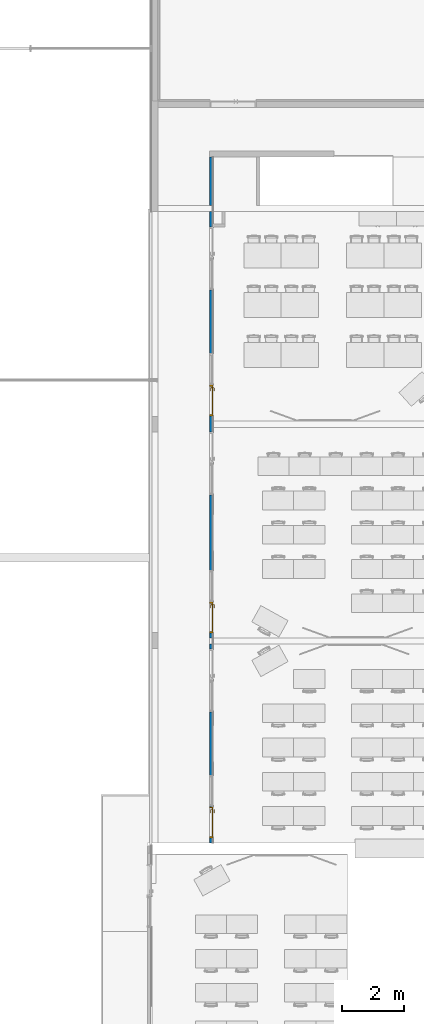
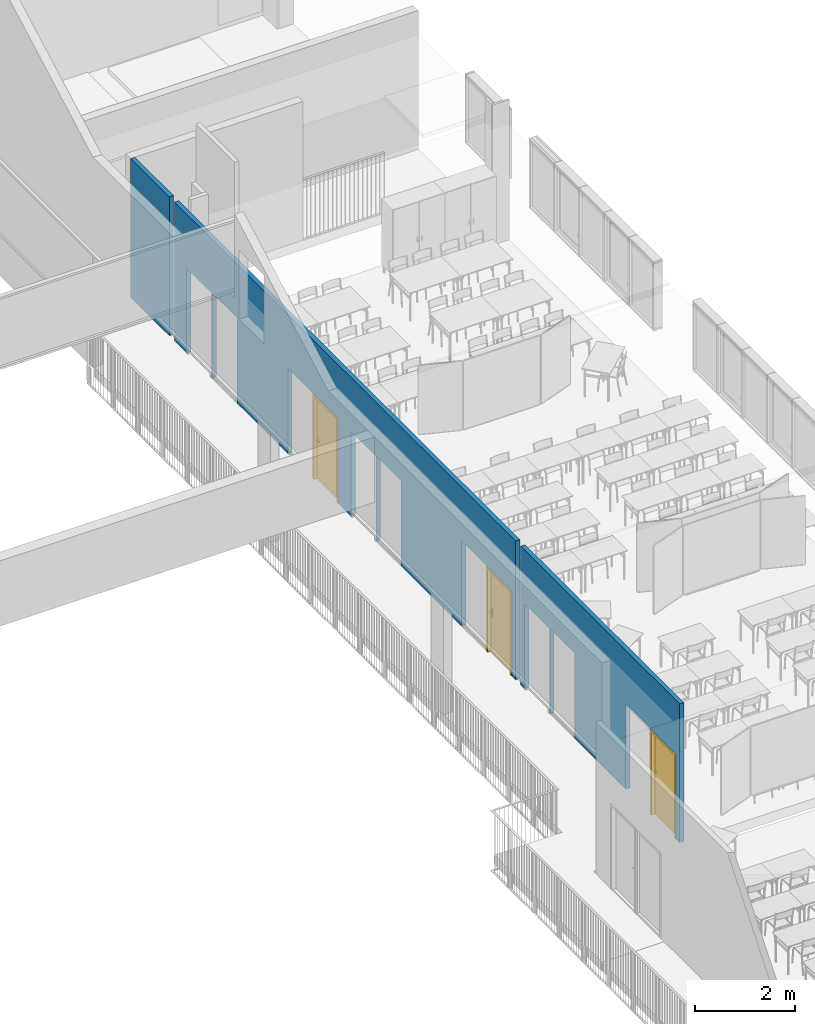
# One storey, part 30 of 44: 3 doors, 1 wall, 6 openings.
"""IFC2X3 building model written with IfcOpenShell, lengths in centimetres."""

from ifc_helpers import new_model, entity, si_unit, converted_unit, derived_unit, direction, frame, frame_2d, origin, place, context, subcontext, project, spatial, rectangle, extrude, faceted_brep, source, transform, mapped, material, material_list, layer, layer_set, type_object, type_shapes, element, fill, save


model = new_model("IFC2X3")

# Units and contexts
model_context = context("Model", 3, precision=0.001, world=origin(), true_north=direction((6.12303176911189e-17, 1.0)))
body_context = subcontext(model_context, "Body", "Model", "MODEL_VIEW")
ifc_project = project(units=[si_unit("LENGTHUNIT", "METRE", prefix="CENTI"), si_unit("AREAUNIT", "SQUARE_METRE"), si_unit("VOLUMEUNIT", "CUBIC_METRE"), converted_unit("PLANEANGLEUNIT", "DEGREE", entity("IfcRatioMeasure", 0.0174532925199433), si_unit("PLANEANGLEUNIT", "RADIAN"), dimensions=[0, 0, 0, 0, 0, 0, 0]), si_unit("MASSUNIT", "GRAM", prefix="KILO"), si_unit("TIMEUNIT", "SECOND"), si_unit("FREQUENCYUNIT", "HERTZ"), si_unit("THERMODYNAMICTEMPERATUREUNIT", "DEGREE_CELSIUS"), derived_unit("THERMALTRANSMITTANCEUNIT", [(si_unit("MASSUNIT", "GRAM", prefix="KILO"), 1), (si_unit("THERMODYNAMICTEMPERATUREUNIT", "KELVIN"), -1), (si_unit("TIMEUNIT", "SECOND"), -3)]), derived_unit("VOLUMETRICFLOWRATEUNIT", [(si_unit("LENGTHUNIT", "METRE"), 3), (si_unit("TIMEUNIT", "SECOND"), -1)]), si_unit("ELECTRICCURRENTUNIT", "AMPERE"), si_unit("ELECTRICVOLTAGEUNIT", "VOLT"), si_unit("POWERUNIT", "WATT"), si_unit("FORCEUNIT", "NEWTON", prefix="KILO"), si_unit("ILLUMINANCEUNIT", "LUX"), si_unit("LUMINOUSFLUXUNIT", "LUMEN"), si_unit("LUMINOUSINTENSITYUNIT", "CANDELA"), derived_unit("USERDEFINED", [(si_unit("MASSUNIT", "GRAM", prefix="KILO"), -1), (si_unit("LENGTHUNIT", "METRE"), -2), (si_unit("TIMEUNIT", "SECOND"), 3), (si_unit("LUMINOUSFLUXUNIT", "LUMEN"), 1)]), derived_unit("LINEARVELOCITYUNIT", [(si_unit("LENGTHUNIT", "METRE"), 1), (si_unit("TIMEUNIT", "SECOND"), -1)]), si_unit("PRESSUREUNIT", "PASCAL"), derived_unit("USERDEFINED", [(si_unit("LENGTHUNIT", "METRE"), -2), (si_unit("MASSUNIT", "GRAM", prefix="KILO"), 1), (si_unit("TIMEUNIT", "SECOND"), -2)])], contexts=[model_context])

# Site, building, storey
site_placement = place(None, frame((8.62739174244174, -249.285249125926, 0.0)))
site = spatial("IfcSite", under=ifc_project, at=site_placement, Name="Default", CompositionType="ELEMENT")
building_placement = place(site_placement, origin())
building = spatial("IfcBuilding", under=site, at=building_placement, CompositionType="ELEMENT")
storey_placement = place(building_placement, frame((0.0, 0.0, 343.0)))
storey = spatial("IfcBuildingStorey", under=building, at=storey_placement, Name="R+1", CompositionType="ELEMENT", Elevation=343.0)

# Wall, openings, doors
ifc_material_1 = material(Name="Plâtre")
ifc_layer = layer(ifc_material_1, 10.0)
ifc_layer_set = layer_set([ifc_layer], Name="Mur de base:PLA 10")
wall_type = type_object("IfcWallType", Name="Mur de base:PLA 10", PredefinedType="STANDARD", material=ifc_layer_set)
wall_placement = place(storey_placement, frame((3224.90482780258, 2654.98020806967, 0.0), z_axis=(0.0, 0.0, 1.0), x_axis=(0.0, 1.0, 0.0)))
wall = element("IfcWall", 1, at=wall_placement, inside=storey, type_object=wall_type, Name="Mur de base:PLA 10", ObjectType="Mur de base:PLA 10", context=body_context, shape_type="Brep", body=[
    faceted_brep([(638.204985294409, -5.0, 0.0), (638.204985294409, -5.0, 340.0), (0.0, -5.0, 340.0), (0.0, -5.0, 0.0), (16.0, -5.0, 0.0), (16.0, -5.0, 207.499999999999), (116.0, -5.0, 207.499999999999), (116.0, -5.0, 0.0), (117.0, -5.0, 0.0), (117.0, -5.0, 208.499999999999), (217.0, -5.0, 208.499999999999), (217.0, -5.0, 0.0), (421.20498529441, -5.0, 0.0), (421.20498529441, -5.0, 208.499999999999), (521.20498529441, -5.0, 208.499999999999), (521.20498529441, -5.0, 0.0), (522.20498529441, -5.0, 0.0), (522.204985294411, -5.0, 207.499999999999), (622.20498529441, -5.0, 207.499999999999), (622.20498529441, -5.0, 0.0), (0.0, 5.0, 0.0), (16.0, 5.0, 0.0), (0.0, 5.0, 340.0), (638.204985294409, 5.0, 0.0), (638.204985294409, 5.0, 340.0), (16.0, 5.0, 207.499999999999), (116.0, 5.0, 207.499999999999), (116.0, 5.0, 0.0), (117.0, 5.0, 208.499999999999), (117.0, 5.0, 0.0), (217.0, 5.0, 208.499999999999), (217.0, 5.0, 0.0), (421.20498529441, 5.0, 208.499999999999), (421.20498529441, 5.0, 0.0), (521.20498529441, 5.0, 208.499999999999), (521.20498529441, 5.0, 0.0), (622.20498529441, 5.0, 207.499999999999), (622.20498529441, 5.0, 0.0), (522.204985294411, 5.0, 207.499999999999), (522.204985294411, 5.0, 0.0)], [[[0, 1, 2, 3, 4, 5, 6, 7, 8, 9, 10, 11, 12, 13, 14, 15, 16, 17, 18, 19]], [[3, 20, 21, 4]], [[20, 3, 2, 22]], [[1, 0, 23, 24]], [[25, 5, 4, 21]], [[5, 25, 26, 6]], [[6, 26, 27, 7]], [[28, 9, 8, 29]], [[9, 28, 30, 10]], [[10, 30, 31, 11]], [[32, 13, 12, 33]], [[34, 14, 13, 32]], [[14, 34, 35, 15]], [[2, 1, 24, 22]], [[18, 36, 37, 19]], [[36, 18, 17, 38]], [[38, 17, 16, 39]], [[7, 27, 29, 8]], [[11, 31, 33, 12]], [[15, 35, 39, 16]], [[23, 0, 19, 37]], [[25, 21, 20, 22, 24, 23, 37, 36, 38, 39, 35, 34, 32, 33, 31, 30, 28, 29, 27, 26]]]),
    faceted_brep([(2048.0, 5.0, 0.0), (2048.0, 5.0, 340.0), (2203.0, 5.0, 340.0), (2203.0, 5.0, 0.0), (2203.0, -5.0, 0.0), (2203.0, -5.0, 340.0), (2048.0, -5.0, 0.0), (2048.0, -5.0, 340.0)], [[[0, 1, 2, 3]], [[4, 3, 2, 5]], [[6, 7, 1, 0]], [[7, 5, 2, 1]], [[3, 4, 6, 0]], [[7, 6, 4, 5]]]),
    faceted_brep([(2028.0, -5.0, 340.0), (2028.0, -5.0, 0.0), (2028.0, 5.0, 0.0), (2028.0, 5.0, 340.0), (658.204985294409, -5.0, 0.0), (658.204985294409, -5.0, 340.0), (658.204985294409, 5.0, 340.0), (658.204985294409, 5.0, 0.0), (1371.20498529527, 5.0, 207.499999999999), (1371.20498529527, -5.0, 207.499999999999), (1371.20498529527, -5.0, 0.0), (1371.20498529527, 5.0, 0.0), (1471.20498529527, 5.0, 207.499999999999), (1471.20498529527, -5.0, 207.499999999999), (1471.20498529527, 5.0, 0.0), (1471.20498529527, -5.0, 0.0), (674.204985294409, 5.0, 207.499999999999), (674.204985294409, -5.0, 207.499999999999), (674.204985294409, -5.0, 0.0), (674.204985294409, 5.0, 0.0), (774.204985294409, 5.0, 207.499999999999), (774.204985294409, -5.0, 207.499999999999), (774.204985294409, 5.0, 0.0), (774.204985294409, -5.0, 0.0), (1472.20498529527, 5.0, 208.499999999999), (1472.20498529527, -5.0, 208.499999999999), (1472.20498529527, -5.0, 0.0), (1472.20498529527, 5.0, 0.0), (1572.20498529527, 5.0, 208.499999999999), (1572.20498529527, -5.0, 208.499999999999), (1572.20498529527, 5.0, 0.0), (1572.20498529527, -5.0, 0.0), (775.20498529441, 5.0, 208.499999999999), (775.20498529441, -5.0, 208.499999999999), (775.20498529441, -5.0, 0.0), (775.20498529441, 5.0, 0.0), (875.20498529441, 5.0, 208.499999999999), (875.20498529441, -5.0, 208.499999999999), (875.20498529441, 5.0, 0.0), (875.20498529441, -5.0, 0.0), (1118.20498529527, 5.0, 208.499999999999), (1118.20498529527, -5.0, 208.499999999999), (1118.20498529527, -5.0, 0.0), (1118.20498529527, 5.0, 0.0), (1218.20498529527, 5.0, 208.499999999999), (1218.20498529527, -5.0, 208.499999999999), (1218.20498529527, 5.0, 0.0), (1218.20498529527, -5.0, 0.0), (1776.50000006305, 5.0, 208.499999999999), (1776.50000006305, -5.0, 208.499999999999), (1776.50000006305, -5.0, 0.0), (1776.50000006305, 5.0, 0.0), (1876.50000006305, 5.0, 208.499999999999), (1876.50000006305, -5.0, 208.499999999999), (1876.50000006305, 5.0, 0.0), (1876.50000006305, -5.0, 0.0), (1319.20498529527, -5.0, 207.499999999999), (1319.20498529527, 5.0, 207.499999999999), (1319.20498529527, 5.0, 0.0), (1319.20498529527, -5.0, 0.0), (1219.20498529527, -5.0, 207.499999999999), (1219.20498529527, 5.0, 207.499999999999), (1219.20498529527, -5.0, 0.0), (1219.20498529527, 5.0, 0.0), (1978.0, -5.0, 0.0), (1978.0, -5.0, 207.499999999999), (1978.0, 5.0, 207.499999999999), (1978.0, 5.0, 0.0), (1878.0, -5.0, 207.499999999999), (1878.0, 5.0, 207.499999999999), (1878.0, -5.0, 0.0), (1878.0, 5.0, 0.0), (1335.20498529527, -5.0, 340.0), (1355.20498529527, -5.0, 340.0), (1355.20498529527, -5.0, 0.0), (1335.20498529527, -5.0, 0.0)], [[[0, 1, 2, 3]], [[4, 5, 6, 7]], [[8, 9, 10, 11]], [[9, 8, 12, 13]], [[13, 12, 14, 15]], [[16, 17, 18, 19]], [[17, 16, 20, 21]], [[21, 20, 22, 23]], [[24, 25, 26, 27]], [[25, 24, 28, 29]], [[29, 28, 30, 31]], [[32, 33, 34, 35]], [[33, 32, 36, 37]], [[37, 36, 38, 39]], [[40, 41, 42, 43]], [[44, 45, 41, 40]], [[45, 44, 46, 47]], [[48, 49, 50, 51]], [[52, 53, 49, 48]], [[53, 52, 54, 55]], [[56, 57, 58, 59]], [[57, 56, 60, 61]], [[61, 60, 62, 63]], [[64, 65, 66, 67]], [[65, 68, 69, 66]], [[68, 70, 71, 69]], [[5, 72, 73, 0, 3, 6]], [[4, 7, 19, 18]], [[23, 22, 35, 34]], [[39, 38, 43, 42]], [[47, 46, 63, 62]], [[15, 14, 27, 26]], [[31, 30, 51, 50]], [[55, 54, 71, 70]], [[11, 10, 74, 75, 59, 58]], [[2, 1, 64, 67]], [[3, 2, 67, 66, 69, 71, 54, 52, 48, 51, 30, 28, 24, 27, 14, 12, 8, 11, 58, 57, 61, 63, 46, 44, 40, 43, 38, 36, 32, 35, 22, 20, 16, 19, 7, 6]], [[1, 0, 73, 72, 5, 4, 18, 17, 21, 23, 34, 33, 37, 39, 42, 41, 45, 47, 62, 60, 56, 59, 75, 74, 10, 9, 13, 15, 26, 25, 29, 31, 50, 49, 53, 55, 70, 68, 65, 64]]]),
])
opening_1_placement = place(wall_placement, frame((1471.20498529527, 5.0, 0.0)))
opening_1 = element("IfcOpeningElement", 2, at=opening_1_placement, cuts=wall, Name="Simple(R)_bois_mu:93 x 204 cm:1", ObjectType="Opening", context=body_context, shape_type="SweptSolid", body=[
    extrude(rectangle(XDim=207.499999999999, YDim=99.9999999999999, at=frame_2d((103.749999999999, 50.0), x_axis=(1.0, 0.0))), frame((0.0, 0.0, 0.0), z_axis=(0.0, -1.0, 0.0), x_axis=(0.0, 0.0, 1.0)), (0.0, 0.0, 1.0), 10.0),
])
opening_2_placement = place(wall_placement, frame((116.0, 5.0, 0.0)))
opening_2 = element("IfcOpeningElement", 3, at=opening_2_placement, cuts=wall, Name="Simple(R)_bois_mu:93 x 204 cm:1", ObjectType="Opening", context=body_context, shape_type="SweptSolid", body=[
    extrude(rectangle(XDim=207.499999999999, YDim=99.9999999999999, at=frame_2d((103.749999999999, 50.0), x_axis=(1.0, 0.0))), frame((0.0, 0.0, 0.0), z_axis=(0.0, -1.0, 0.0), x_axis=(0.0, 0.0, 1.0)), (0.0, 0.0, 1.0), 10.0),
])
opening_3_placement = place(wall_placement, frame((774.204985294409, 5.0, 0.0)))
opening_3 = element("IfcOpeningElement", 4, at=opening_3_placement, cuts=wall, Name="Simple(R)_bois_mu:93 x 204 cm:1", ObjectType="Opening", context=body_context, shape_type="SweptSolid", body=[
    extrude(rectangle(XDim=207.499999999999, YDim=99.9999999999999, at=frame_2d((103.749999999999, 50.0), x_axis=(1.0, 0.0))), frame((0.0, 0.0, 0.0), z_axis=(0.0, -1.0, 0.0), x_axis=(0.0, 0.0, 1.0)), (0.0, 0.0, 1.0), 10.0),
])
opening_4_placement = place(wall_placement, frame((622.204985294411, 5.0, 0.0)))
element("IfcOpeningElement", 5, at=opening_4_placement, cuts=wall, Name="Simple(R)_bois_mu:93 x 204 cm:1", ObjectType="Opening", context=body_context, shape_type="SweptSolid", body=[
    extrude(rectangle(XDim=207.499999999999, YDim=99.9999999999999, at=frame_2d((103.749999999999, 50.0), x_axis=(1.0, 0.0))), frame((0.0, 0.0, 0.0), z_axis=(0.0, -1.0, 0.0), x_axis=(0.0, 0.0, 1.0)), (0.0, 0.0, 1.0), 10.0),
])
opening_5_placement = place(wall_placement, frame((1319.20498529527, 5.0, 0.0)))
element("IfcOpeningElement", 6, at=opening_5_placement, cuts=wall, Name="Simple(R)_bois_mu:93 x 204 cm:1", ObjectType="Opening", context=body_context, shape_type="SweptSolid", body=[
    extrude(rectangle(XDim=207.499999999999, YDim=99.9999999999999, at=frame_2d((103.749999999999, 50.0), x_axis=(1.0, 0.0))), frame((0.0, 0.0, 0.0), z_axis=(0.0, -1.0, 0.0), x_axis=(0.0, 0.0, 1.0)), (0.0, 0.0, 1.0), 10.0),
])
opening_6_placement = place(wall_placement, frame((1978.0, 5.0, 0.0)))
element("IfcOpeningElement", 7, at=opening_6_placement, cuts=wall, Name="Simple(R)_bois_mu:93 x 204 cm:1", ObjectType="Opening", context=body_context, shape_type="SweptSolid", body=[
    extrude(rectangle(XDim=207.499999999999, YDim=99.9999999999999, at=frame_2d((103.749999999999, 49.9999999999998), x_axis=(1.0, 0.0))), frame((0.0, 0.0, 0.0), z_axis=(0.0, -1.0, 0.0), x_axis=(0.0, 0.0, 1.0)), (0.0, 0.0, 1.0), 10.0),
])
ifc_material_2 = material(Name="Porte - Poignée")
ifc_material_3 = material(Name="Porte - Cadre")
ifc_material_4 = material(Name="Porte - Panneau")
ifc_material_list_1 = material_list([ifc_material_2, ifc_material_3, ifc_material_4])
ifc_material_list_2 = material_list([ifc_material_2, ifc_material_3, ifc_material_4])
door_style = type_object("IfcDoorStyle", Name="93 x 204 cm", ConstructionType="NOTDEFINED", OperationType="SINGLE_SWING_LEFT", ParameterTakesPrecedence=False, Sizeable=False, material=ifc_material_list_2)
shared_shape = source(origin(), body_context, "Body", "Brep", [
    faceted_brep([(92.2025298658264, 3.69999999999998, 100.778044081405), (91.7974701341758, 3.69999999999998, 100.778044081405), (91.3999999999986, 3.69999999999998, 100.699999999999), (91.4000000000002, 3.69999999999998, 99.3000000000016), (91.7974701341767, 3.69999999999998, 99.2219559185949), (92.2025298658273, 3.69999999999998, 99.2219559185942), (92.6000000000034, 3.69999999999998, 99.2999999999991), (92.600000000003, 3.69999999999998, 100.699999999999), (91.3999999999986, 5.94852045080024, 100.699999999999), (91.3999999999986, 5.94852045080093, 99.3000000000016), (91.7974701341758, 6.1131579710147, 100.778044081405), (92.2025298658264, 6.2809392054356, 100.778044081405), (90.5838906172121, 7.89957845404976, 100.778044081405), (90.4161093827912, 7.49451872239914, 100.778044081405), (82.0793122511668, 7.49451872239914, 100.778044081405), (81.911531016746, 7.89957845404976, 100.778044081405), (81.1451046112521, 7.13315204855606, 100.778044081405), (81.4315250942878, 6.84673156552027, 100.778044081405), (92.600000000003, 6.44557672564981, 100.699999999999), (92.6000000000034, 6.44557672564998, 99.2999999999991), (92.2025298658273, 6.28093920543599, 99.2219559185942), (91.7974701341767, 6.11315797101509, 99.2219559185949), (90.4161093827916, 7.49451872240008, 99.2219559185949), (90.5838906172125, 7.8995784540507, 99.2219559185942), (81.9115310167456, 7.8995784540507, 99.2219559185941), (82.0793122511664, 7.49451872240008, 99.2219559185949), (81.4315250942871, 6.84673156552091, 99.2219559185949), (81.1451046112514, 7.13315204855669, 99.2219559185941), (90.2514718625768, 7.09704858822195, 100.699999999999), (90.2514718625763, 7.09704858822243, 99.3000000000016), (90.7485281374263, 8.29704858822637, 100.699999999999), (90.7485281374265, 8.29704858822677, 99.2999999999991), (86.247710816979, 7.09704858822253, 100.699999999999), (82.2439497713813, 7.09704858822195, 100.699999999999), (82.2439497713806, 7.09704858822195, 99.3000000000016), (86.247710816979, 7.09704858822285, 99.3000000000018), (86.2477108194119, 7.71249275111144, 100.787811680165), (85.7399422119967, 8.29704858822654, 100.699999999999), (81.7468934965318, 8.29704858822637, 100.699999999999), (86.7554791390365, 8.29704858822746, 99.2999999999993), (81.7468934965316, 8.29704858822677, 99.2999999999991), (86.2477107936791, 7.71249274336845, 99.2121883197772), (80.8640507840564, 7.41420587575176, 100.699999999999), (80.8640507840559, 7.41420587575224, 99.2999999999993), (81.7125789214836, 6.5656777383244, 99.3000000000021), (81.7125789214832, 6.56567773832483, 100.699999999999)], [[[0, 1, 2, 3, 4, 5, 6, 7]], [[8, 9, 3, 2]], [[1, 10, 8, 2]], [[1, 0, 11, 12, 13, 10]], [[14, 15, 16, 17]], [[7, 18, 11, 0]], [[18, 7, 6, 19]], [[6, 5, 20, 19]], [[5, 4, 21, 22, 23, 20]], [[24, 25, 26, 27]], [[4, 3, 9, 21]], [[28, 29, 9, 8]], [[8, 10, 13, 28]], [[18, 30, 12, 11]], [[31, 30, 18, 19]], [[19, 20, 23, 31]], [[21, 9, 29, 22]], [[29, 28, 32, 33, 34, 35]], [[36, 32, 13]], [[37, 38, 15]], [[37, 12, 30]], [[36, 12, 37]], [[14, 32, 36]], [[36, 15, 14]], [[28, 13, 32]], [[32, 14, 33]], [[12, 36, 13]], [[15, 36, 37]], [[30, 31, 39, 40, 38, 37]], [[23, 41, 39]], [[24, 39, 41]], [[39, 31, 23]], [[39, 24, 40]], [[22, 35, 41]], [[41, 23, 22]], [[41, 35, 25]], [[35, 22, 29]], [[34, 25, 35]], [[24, 41, 25]], [[17, 16, 42, 43, 27, 26, 44, 45]], [[45, 44, 34, 33]], [[33, 14, 17, 45]], [[15, 38, 42, 16]], [[43, 42, 38, 40]], [[24, 27, 43, 40]], [[34, 44, 26, 25]]]),
    faceted_brep([(91.7974701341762, -1.30000000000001, 100.778044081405), (92.2025298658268, -1.30000000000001, 100.778044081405), (92.6000000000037, -1.30000000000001, 100.699999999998), (92.6000000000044, -1.30000000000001, 99.2999999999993), (92.2025298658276, -1.30000000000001, 99.2219559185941), (91.797470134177, -1.30000000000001, 99.2219559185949), (91.3999999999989, -1.30000000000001, 99.3000000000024), (91.3999999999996, -1.30000000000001, 100.699999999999), (92.2025298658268, -3.90045754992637, 100.778044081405), (92.6000000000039, -4.06509507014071, 100.699999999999), (91.7974701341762, -3.73267631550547, 100.778044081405), (90.4298602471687, -5.10028620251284, 100.778044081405), (90.5976414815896, -5.50534593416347, 100.778044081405), (81.9142453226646, -5.50534593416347, 100.778044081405), (82.0820265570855, -5.10028620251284, 100.778044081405), (81.4342394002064, -4.4524990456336, 100.778044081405), (81.1478189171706, -4.73891952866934, 100.778044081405), (91.3999999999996, -3.56803879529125, 100.699999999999), (91.3999999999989, -3.56803879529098, 99.3000000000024), (91.797470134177, -3.7326763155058, 99.2219559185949), (92.2025298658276, -3.9004575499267, 99.2219559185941), (90.5976414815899, -5.50534593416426, 99.2219559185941), (90.429860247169, -5.10028620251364, 99.2219559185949), (82.0820265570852, -5.10028620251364, 99.2219559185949), (81.9142453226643, -5.50534593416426, 99.2219559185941), (81.14781891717, -4.73891952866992, 99.2219559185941), (81.4342394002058, -4.45249904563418, 99.2219559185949), (92.6000000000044, -4.06509507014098, 99.2999999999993), (90.762279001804, -5.90281606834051, 100.699999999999), (90.2652227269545, -4.70281606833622, 100.699999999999), (90.2652227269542, -4.70281606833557, 99.3000000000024), (90.7622790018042, -5.90281606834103, 99.2999999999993), (86.2559433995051, -5.31828027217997, 100.787811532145), (86.769230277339, -5.90281606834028, 100.699999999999), (81.7496078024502, -5.90281606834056, 100.699999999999), (86.255943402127, -4.70281606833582, 100.699999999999), (82.2466640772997, -4.70281606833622, 100.699999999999), (86.2559436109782, -4.70281606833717, 99.3000000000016), (82.2466640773, -4.70281606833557, 99.3000000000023), (86.2559434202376, -5.31828027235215, 99.2121884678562), (85.7426572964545, -5.90281606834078, 99.2999999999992), (81.74960780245, -5.90281606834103, 99.2999999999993), (81.7152932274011, -4.17144521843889, 99.3000000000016), (80.8667650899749, -5.01997335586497, 99.2999999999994), (80.8667650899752, -5.01997335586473, 100.699999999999), (81.7152932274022, -4.17144521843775, 100.699999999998)], [[[0, 1, 2, 3, 4, 5, 6, 7]], [[2, 1, 8, 9]], [[1, 0, 10, 11, 12, 8]], [[13, 14, 15, 16]], [[0, 7, 17, 10]], [[18, 17, 7, 6]], [[5, 19, 18, 6]], [[5, 4, 20, 21, 22, 19]], [[23, 24, 25, 26]], [[3, 27, 20, 4]], [[9, 27, 3, 2]], [[9, 8, 12, 28]], [[10, 17, 29, 11]], [[30, 29, 17, 18]], [[18, 19, 22, 30]], [[20, 27, 31, 21]], [[28, 31, 27, 9]], [[12, 32, 33]], [[13, 33, 32]], [[33, 28, 12]], [[33, 13, 34]], [[11, 35, 32]], [[32, 12, 11]], [[32, 35, 14]], [[35, 11, 29]], [[36, 14, 35]], [[13, 32, 14]], [[29, 30, 37, 38, 36, 35]], [[39, 37, 22]], [[40, 41, 24]], [[40, 21, 31]], [[39, 21, 40]], [[23, 37, 39]], [[39, 24, 23]], [[30, 22, 37]], [[37, 23, 38]], [[21, 39, 22]], [[24, 39, 40]], [[31, 28, 33, 34, 41, 40]], [[42, 26, 25, 43, 44, 16, 15, 45]], [[13, 16, 44, 34]], [[36, 45, 15, 14]], [[42, 45, 36, 38]], [[38, 23, 26, 42]], [[24, 41, 43, 25]], [[44, 43, 41, 34]]]),
    faceted_brep([(92.0, 3.19999999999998, 86.4641016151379), (93.0352761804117, 3.19999999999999, 86.6003983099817), (94.0, 3.19999999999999, 87.0), (94.0, 3.19999999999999, 108.0), (93.0352761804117, 3.19999999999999, 108.399601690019), (92.0, 3.19999999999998, 108.535898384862), (90.9647238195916, 3.19999999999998, 108.399601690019), (90.0, 3.19999999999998, 108.0), (90.0, 3.19999999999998, 87.0), (90.9647238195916, 3.19999999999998, 86.6003983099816), (92.0, 3.69999999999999, 108.535898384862), (93.0352761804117, 3.69999999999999, 108.399601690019), (94.0, 3.69999999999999, 108.0), (94.0, 3.69999999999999, 87.0), (93.0352761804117, 3.69999999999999, 86.6003983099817), (92.0, 3.69999999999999, 86.4641016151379), (90.9647238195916, 3.69999999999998, 86.6003983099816), (90.0, 3.69999999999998, 87.0), (90.0, 3.69999999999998, 108.0), (90.9647238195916, 3.69999999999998, 108.399601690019)], [[[0, 1, 2, 3, 4, 5, 6, 7, 8, 9]], [[10, 11, 12, 13, 14, 15, 16, 17, 18, 19]], [[6, 19, 18, 7]], [[5, 10, 19, 6]], [[4, 11, 10, 5]], [[4, 3, 12, 11]], [[12, 3, 2, 13]], [[1, 14, 13, 2]], [[0, 15, 14, 1]], [[9, 16, 15, 0]], [[9, 8, 17, 16]], [[17, 8, 7, 18]]]),
    faceted_brep([(92.0, -1.30000000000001, 86.4641016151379), (93.0352761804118, -1.30000000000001, 86.6003983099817), (94.0, -1.30000000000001, 87.0), (94.0, -1.30000000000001, 108.0), (93.0352761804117, -1.30000000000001, 108.399601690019), (92.0, -1.30000000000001, 108.535898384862), (90.9647238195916, -1.30000000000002, 108.399601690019), (90.0, -1.30000000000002, 108.0), (90.0, -1.30000000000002, 87.0), (90.9647238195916, -1.30000000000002, 86.6003983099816), (94.0, -0.800000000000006, 108.0), (94.0, -0.800000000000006, 87.0), (93.0352761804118, -0.800000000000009, 86.6003983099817), (92.0, -0.800000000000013, 86.4641016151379), (90.9647238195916, -0.800000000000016, 86.6003983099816), (90.0, -0.800000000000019, 87.0), (90.0, -0.800000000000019, 108.0), (90.9647238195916, -0.800000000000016, 108.399601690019), (92.0, -0.800000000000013, 108.535898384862), (93.0352761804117, -0.800000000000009, 108.399601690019)], [[[0, 1, 2, 3, 4, 5, 6, 7, 8, 9]], [[10, 11, 12, 13, 14, 15, 16, 17, 18, 19]], [[1, 12, 11, 2]], [[0, 13, 12, 1]], [[9, 14, 13, 0]], [[9, 8, 15, 14]], [[15, 8, 7, 16]], [[6, 17, 16, 7]], [[5, 18, 17, 6]], [[4, 19, 18, 5]], [[4, 3, 10, 19]], [[10, 3, 2, 11]]]),
    faceted_brep([(101.0, 0.0, 0.0), (102.0, 0.0, 0.0), (102.0, -0.799999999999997, 0.0), (97.5000000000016, -0.799999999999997, 0.0), (97.5000000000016, 3.2, 0.0), (96.5000000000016, 3.2, 0.0), (96.5000000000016, 10.8000000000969, 0.0), (102.0, 10.8000000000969, 0.0), (102.0, 10.0, 0.0), (101.0, 10.0, 0.0), (101.0, 10.0, 207.499999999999), (101.0, 0.0, 207.499999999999), (102.0, 10.0, 208.499999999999), (0.0, 10.0, 208.499999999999), (0.0, 10.0, 0.0), (1.0, 10.0, 0.0), (1.0, 10.0, 207.499999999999), (102.0, 10.8000000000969, 208.499999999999), (96.5000000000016, 10.8000000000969, 203.0), (5.50000000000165, 10.8000000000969, 203.0), (5.50000000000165, 10.8000000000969, 0.0), (0.0, 10.8000000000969, 0.0), (0.0, 10.8000000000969, 208.499999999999), (96.5000000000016, 3.2, 203.0), (97.5000000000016, 3.2, 204.0), (4.50000000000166, 3.2, 204.0), (4.50000000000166, 3.2, 0.0), (5.50000000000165, 3.2, 0.0), (5.50000000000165, 3.2, 203.0), (97.5000000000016, -0.799999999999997, 204.0), (102.0, -0.799999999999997, 208.499999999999), (0.0, -0.799999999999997, 208.499999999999), (0.0, -0.799999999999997, 0.0), (4.50000000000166, -0.799999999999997, 0.0), (4.50000000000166, -0.799999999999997, 204.0), (102.0, 0.0, 208.499999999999), (1.0, 0.0, 207.499999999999), (1.0, 0.0, 0.0), (0.0, 0.0, 0.0), (0.0, 0.0, 208.499999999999)], [[[0, 1, 2, 3, 4, 5, 6, 7, 8, 9]], [[9, 10, 11, 0]], [[8, 12, 13, 14, 15, 16, 10, 9]], [[7, 17, 12, 8]], [[6, 18, 19, 20, 21, 22, 17, 7]], [[5, 23, 18, 6]], [[4, 24, 25, 26, 27, 28, 23, 5]], [[3, 29, 24, 4]], [[2, 30, 31, 32, 33, 34, 29, 3]], [[1, 35, 30, 2]], [[0, 11, 36, 37, 38, 39, 35, 1]], [[16, 15, 37, 36]], [[37, 15, 14, 21, 20, 27, 26, 33, 32, 38]], [[22, 21, 14, 13]], [[28, 27, 20, 19]], [[34, 33, 26, 25]], [[39, 38, 32, 31]], [[10, 16, 36, 11]], [[17, 22, 13, 12]], [[23, 28, 19, 18]], [[29, 34, 25, 24]], [[35, 39, 31, 30]]]),
    faceted_brep([(97.5000000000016, -0.799999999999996, 204.0), (4.50000000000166, -0.799999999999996, 204.0), (4.50000000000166, -0.799999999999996, 0.0), (97.5000000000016, -0.799999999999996, 0.0), (97.5000000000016, 3.2, 204.0), (97.5000000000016, 3.2, 0.0), (4.50000000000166, 3.2, 0.0), (4.50000000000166, 3.2, 204.0)], [[[0, 1, 2, 3]], [[4, 5, 6, 7]], [[3, 5, 4, 0]], [[2, 6, 5, 3]], [[1, 7, 6, 2]], [[0, 4, 7, 1]]]),
])
type_shapes(door_style, [shared_shape])
door_1_placement = place(opening_1_placement, frame((-101.0, -10.0, 0.0)))
door_1 = element("IfcDoor", 8, at=door_1_placement, inside=storey, type_object=door_style, material=ifc_material_list_1, Name="Simple(R)_bois_mu:93 x 204 cm", ObjectType="93 x 204 cm", OverallHeight=207.499999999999, OverallWidth=99.9999999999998, context=body_context, shape_type="MappedRepresentation", body=[
    mapped(shared_shape, transform((0.0, 0.0, 0.0), scale=1.0)),
])
fill(opening_1, door_1)
ifc_material_list_3 = material_list([ifc_material_2, ifc_material_3, ifc_material_4])
door_2_placement = place(opening_2_placement, frame((-101.0, -10.0, 0.0)))
door_2 = element("IfcDoor", 9, at=door_2_placement, inside=storey, type_object=door_style, material=ifc_material_list_3, Name="Simple(R)_bois_mu:93 x 204 cm", ObjectType="93 x 204 cm", OverallHeight=207.499999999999, OverallWidth=99.9999999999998, context=body_context, shape_type="MappedRepresentation", body=[
    mapped(shared_shape, transform((0.0, 0.0, 0.0), scale=1.0)),
])
fill(opening_2, door_2)
ifc_material_list_4 = material_list([ifc_material_2, ifc_material_3, ifc_material_4])
door_3_placement = place(opening_3_placement, frame((-101.0, -10.0, 0.0)))
door_3 = element("IfcDoor", 10, at=door_3_placement, inside=storey, type_object=door_style, material=ifc_material_list_4, Name="Simple(R)_bois_mu:93 x 204 cm", ObjectType="93 x 204 cm", OverallHeight=207.499999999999, OverallWidth=99.9999999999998, context=body_context, shape_type="MappedRepresentation", body=[
    mapped(shared_shape, transform((0.0, 0.0, 0.0), scale=1.0)),
])
fill(opening_3, door_3)

save(model, "model.ifc")
